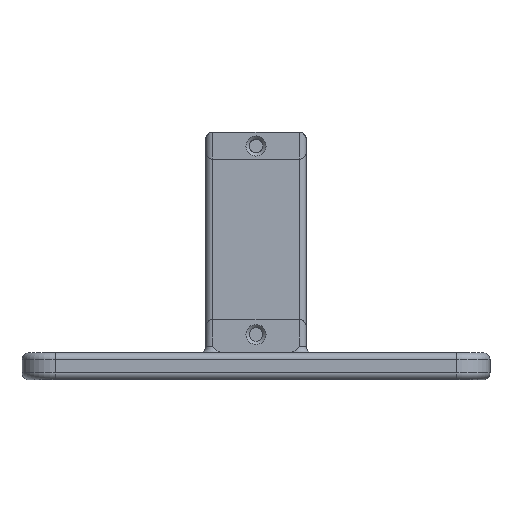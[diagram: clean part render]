
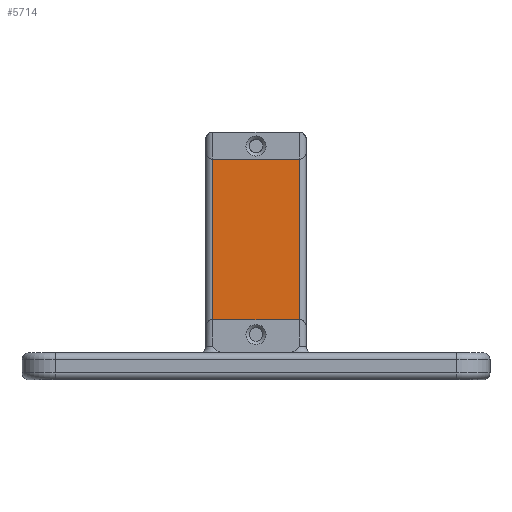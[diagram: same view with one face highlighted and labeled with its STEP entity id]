
A CAD part, left-side view. The second image highlights one B-rep face of the part: STEP entity #5714.
In plain terms, the highlighted planar face has unit normal (-1, 0, 0).
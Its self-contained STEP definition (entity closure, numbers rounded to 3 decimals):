
#2397 = PLANE('',#2398);
#2398 = AXIS2_PLACEMENT_3D('',#2399,#2400,#2401);
#2399 = CARTESIAN_POINT('',(0.,0.,7.));
#2400 = DIRECTION('',(0.,0.,1.));
#2401 = DIRECTION('',(1.,0.,0.));
#3425 = CYLINDRICAL_SURFACE('',#3426,1.);
#3426 = AXIS2_PLACEMENT_3D('',#3427,#3428,#3429);
#3427 = CARTESIAN_POINT('',(10.,6.5,35.));
#3428 = DIRECTION('',(0.,0.,1.));
#3429 = DIRECTION('',(1.,0.,0.));
#4151 = EDGE_CURVE('',#4152,#4154,#4156,.T.);
#4152 = VERTEX_POINT('',#4153);
#4153 = CARTESIAN_POINT('',(9.,-6.5,7.));
#4154 = VERTEX_POINT('',#4155);
#4155 = CARTESIAN_POINT('',(9.,6.5,7.));
#4156 = SURFACE_CURVE('',#4157,(#4161,#4168),.PCURVE_S1.);
#4157 = LINE('',#4158,#4159);
#4158 = CARTESIAN_POINT('',(9.,0.,7.));
#4159 = VECTOR('',#4160,1.);
#4160 = DIRECTION('',(0.,1.,0.));
#4161 = PCURVE('',#2397,#4162);
#4162 = DEFINITIONAL_REPRESENTATION('',(#4163),#4167);
#4163 = LINE('',#4164,#4165);
#4164 = CARTESIAN_POINT('',(9.,0.));
#4165 = VECTOR('',#4166,1.);
#4166 = DIRECTION('',(0.,1.));
#4167 = ( GEOMETRIC_REPRESENTATION_CONTEXT(2) 
PARAMETRIC_REPRESENTATION_CONTEXT() REPRESENTATION_CONTEXT('2D SPACE',''
  ) );
#4168 = PCURVE('',#4169,#4174);
#4169 = PLANE('',#4170);
#4170 = AXIS2_PLACEMENT_3D('',#4171,#4172,#4173);
#4171 = CARTESIAN_POINT('',(9.,0.,35.));
#4172 = DIRECTION('',(-1.,0.,0.));
#4173 = DIRECTION('',(0.,0.,1.));
#4174 = DEFINITIONAL_REPRESENTATION('',(#4175),#4179);
#4175 = LINE('',#4176,#4177);
#4176 = CARTESIAN_POINT('',(-28.,0.));
#4177 = VECTOR('',#4178,1.);
#4178 = DIRECTION('',(0.,1.));
#4179 = ( GEOMETRIC_REPRESENTATION_CONTEXT(2) 
PARAMETRIC_REPRESENTATION_CONTEXT() REPRESENTATION_CONTEXT('2D SPACE',''
  ) );
#4351 = CYLINDRICAL_SURFACE('',#4352,1.);
#4352 = AXIS2_PLACEMENT_3D('',#4353,#4354,#4355);
#4353 = CARTESIAN_POINT('',(10.,-6.5,7.));
#4354 = DIRECTION('',(0.,0.,-1.));
#4355 = DIRECTION('',(-1.,0.,0.));
#4908 = EDGE_CURVE('',#4909,#4154,#4911,.T.);
#4909 = VERTEX_POINT('',#4910);
#4910 = CARTESIAN_POINT('',(9.,6.5,31.));
#4911 = SURFACE_CURVE('',#4912,(#4916,#4923),.PCURVE_S1.);
#4912 = LINE('',#4913,#4914);
#4913 = CARTESIAN_POINT('',(9.,6.5,7.));
#4914 = VECTOR('',#4915,1.);
#4915 = DIRECTION('',(0.,0.,-1.));
#4916 = PCURVE('',#3425,#4917);
#4917 = DEFINITIONAL_REPRESENTATION('',(#4918),#4922);
#4918 = LINE('',#4919,#4920);
#4919 = CARTESIAN_POINT('',(3.142,-28.));
#4920 = VECTOR('',#4921,1.);
#4921 = DIRECTION('',(0.,-1.));
#4922 = ( GEOMETRIC_REPRESENTATION_CONTEXT(2) 
PARAMETRIC_REPRESENTATION_CONTEXT() REPRESENTATION_CONTEXT('2D SPACE',''
  ) );
#4923 = PCURVE('',#4169,#4924);
#4924 = DEFINITIONAL_REPRESENTATION('',(#4925),#4929);
#4925 = LINE('',#4926,#4927);
#4926 = CARTESIAN_POINT('',(-28.,6.5));
#4927 = VECTOR('',#4928,1.);
#4928 = DIRECTION('',(-1.,0.));
#4929 = ( GEOMETRIC_REPRESENTATION_CONTEXT(2) 
PARAMETRIC_REPRESENTATION_CONTEXT() REPRESENTATION_CONTEXT('2D SPACE',''
  ) );
#5016 = PLANE('',#5017);
#5017 = AXIS2_PLACEMENT_3D('',#5018,#5019,#5020);
#5018 = CARTESIAN_POINT('',(-8.002,0.,31.));
#5019 = DIRECTION('',(0.,0.,1.));
#5020 = DIRECTION('',(1.,0.,0.));
#5714 = ADVANCED_FACE('',(#5715),#4169,.T.);
#5715 = FACE_BOUND('',#5716,.T.);
#5716 = EDGE_LOOP('',(#5717,#5740,#5741,#5742,#5765,#5788));
#5717 = ORIENTED_EDGE('',*,*,#5718,.F.);
#5718 = EDGE_CURVE('',#4909,#5719,#5721,.T.);
#5719 = VERTEX_POINT('',#5720);
#5720 = CARTESIAN_POINT('',(9.,4.,31.));
#5721 = SURFACE_CURVE('',#5722,(#5726,#5733),.PCURVE_S1.);
#5722 = LINE('',#5723,#5724);
#5723 = CARTESIAN_POINT('',(9.,0.,31.));
#5724 = VECTOR('',#5725,1.);
#5725 = DIRECTION('',(0.,-1.,0.));
#5726 = PCURVE('',#4169,#5727);
#5727 = DEFINITIONAL_REPRESENTATION('',(#5728),#5732);
#5728 = LINE('',#5729,#5730);
#5729 = CARTESIAN_POINT('',(-4.,0.));
#5730 = VECTOR('',#5731,1.);
#5731 = DIRECTION('',(0.,-1.));
#5732 = ( GEOMETRIC_REPRESENTATION_CONTEXT(2) 
PARAMETRIC_REPRESENTATION_CONTEXT() REPRESENTATION_CONTEXT('2D SPACE',''
  ) );
#5733 = PCURVE('',#5016,#5734);
#5734 = DEFINITIONAL_REPRESENTATION('',(#5735),#5739);
#5735 = LINE('',#5736,#5737);
#5736 = CARTESIAN_POINT('',(17.002,0.));
#5737 = VECTOR('',#5738,1.);
#5738 = DIRECTION('',(0.,-1.));
#5739 = ( GEOMETRIC_REPRESENTATION_CONTEXT(2) 
PARAMETRIC_REPRESENTATION_CONTEXT() REPRESENTATION_CONTEXT('2D SPACE',''
  ) );
#5740 = ORIENTED_EDGE('',*,*,#4908,.T.);
#5741 = ORIENTED_EDGE('',*,*,#4151,.F.);
#5742 = ORIENTED_EDGE('',*,*,#5743,.F.);
#5743 = EDGE_CURVE('',#5744,#4152,#5746,.T.);
#5744 = VERTEX_POINT('',#5745);
#5745 = CARTESIAN_POINT('',(9.,-6.5,31.));
#5746 = SURFACE_CURVE('',#5747,(#5751,#5758),.PCURVE_S1.);
#5747 = LINE('',#5748,#5749);
#5748 = CARTESIAN_POINT('',(9.,-6.5,35.));
#5749 = VECTOR('',#5750,1.);
#5750 = DIRECTION('',(0.,0.,-1.));
#5751 = PCURVE('',#4169,#5752);
#5752 = DEFINITIONAL_REPRESENTATION('',(#5753),#5757);
#5753 = LINE('',#5754,#5755);
#5754 = CARTESIAN_POINT('',(0.,-6.5));
#5755 = VECTOR('',#5756,1.);
#5756 = DIRECTION('',(-1.,0.));
#5757 = ( GEOMETRIC_REPRESENTATION_CONTEXT(2) 
PARAMETRIC_REPRESENTATION_CONTEXT() REPRESENTATION_CONTEXT('2D SPACE',''
  ) );
#5758 = PCURVE('',#4351,#5759);
#5759 = DEFINITIONAL_REPRESENTATION('',(#5760),#5764);
#5760 = LINE('',#5761,#5762);
#5761 = CARTESIAN_POINT('',(6.283,-28.));
#5762 = VECTOR('',#5763,1.);
#5763 = DIRECTION('',(0.,1.));
#5764 = ( GEOMETRIC_REPRESENTATION_CONTEXT(2) 
PARAMETRIC_REPRESENTATION_CONTEXT() REPRESENTATION_CONTEXT('2D SPACE',''
  ) );
#5765 = ORIENTED_EDGE('',*,*,#5766,.F.);
#5766 = EDGE_CURVE('',#5767,#5744,#5769,.T.);
#5767 = VERTEX_POINT('',#5768);
#5768 = CARTESIAN_POINT('',(9.,-4.,31.));
#5769 = SURFACE_CURVE('',#5770,(#5774,#5781),.PCURVE_S1.);
#5770 = LINE('',#5771,#5772);
#5771 = CARTESIAN_POINT('',(9.,0.,31.));
#5772 = VECTOR('',#5773,1.);
#5773 = DIRECTION('',(0.,-1.,0.));
#5774 = PCURVE('',#4169,#5775);
#5775 = DEFINITIONAL_REPRESENTATION('',(#5776),#5780);
#5776 = LINE('',#5777,#5778);
#5777 = CARTESIAN_POINT('',(-4.,0.));
#5778 = VECTOR('',#5779,1.);
#5779 = DIRECTION('',(0.,-1.));
#5780 = ( GEOMETRIC_REPRESENTATION_CONTEXT(2) 
PARAMETRIC_REPRESENTATION_CONTEXT() REPRESENTATION_CONTEXT('2D SPACE',''
  ) );
#5781 = PCURVE('',#5016,#5782);
#5782 = DEFINITIONAL_REPRESENTATION('',(#5783),#5787);
#5783 = LINE('',#5784,#5785);
#5784 = CARTESIAN_POINT('',(17.002,0.));
#5785 = VECTOR('',#5786,1.);
#5786 = DIRECTION('',(0.,-1.));
#5787 = ( GEOMETRIC_REPRESENTATION_CONTEXT(2) 
PARAMETRIC_REPRESENTATION_CONTEXT() REPRESENTATION_CONTEXT('2D SPACE',''
  ) );
#5788 = ORIENTED_EDGE('',*,*,#5789,.F.);
#5789 = EDGE_CURVE('',#5719,#5767,#5790,.T.);
#5790 = SURFACE_CURVE('',#5791,(#5795,#5802),.PCURVE_S1.);
#5791 = LINE('',#5792,#5793);
#5792 = CARTESIAN_POINT('',(9.,0.,31.));
#5793 = VECTOR('',#5794,1.);
#5794 = DIRECTION('',(0.,-1.,0.));
#5795 = PCURVE('',#4169,#5796);
#5796 = DEFINITIONAL_REPRESENTATION('',(#5797),#5801);
#5797 = LINE('',#5798,#5799);
#5798 = CARTESIAN_POINT('',(-4.,0.));
#5799 = VECTOR('',#5800,1.);
#5800 = DIRECTION('',(0.,-1.));
#5801 = ( GEOMETRIC_REPRESENTATION_CONTEXT(2) 
PARAMETRIC_REPRESENTATION_CONTEXT() REPRESENTATION_CONTEXT('2D SPACE',''
  ) );
#5802 = PCURVE('',#5803,#5808);
#5803 = CYLINDRICAL_SURFACE('',#5804,1.);
#5804 = AXIS2_PLACEMENT_3D('',#5805,#5806,#5807);
#5805 = CARTESIAN_POINT('',(9.,0.,32.));
#5806 = DIRECTION('',(0.,-1.,0.));
#5807 = DIRECTION('',(1.,0.,0.));
#5808 = DEFINITIONAL_REPRESENTATION('',(#5809),#5813);
#5809 = LINE('',#5810,#5811);
#5810 = CARTESIAN_POINT('',(4.712,0.));
#5811 = VECTOR('',#5812,1.);
#5812 = DIRECTION('',(0.,1.));
#5813 = ( GEOMETRIC_REPRESENTATION_CONTEXT(2) 
PARAMETRIC_REPRESENTATION_CONTEXT() REPRESENTATION_CONTEXT('2D SPACE',''
  ) );
